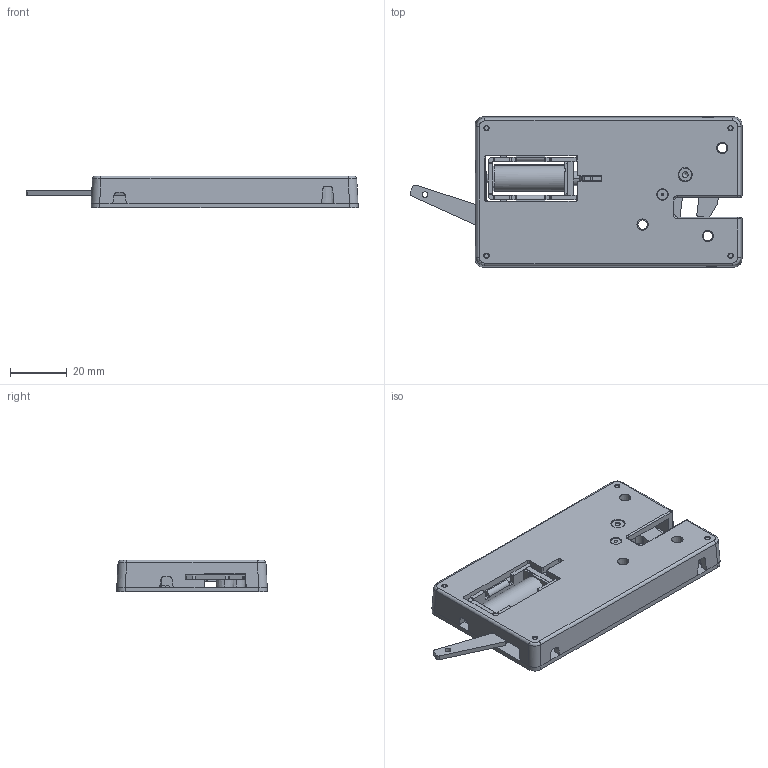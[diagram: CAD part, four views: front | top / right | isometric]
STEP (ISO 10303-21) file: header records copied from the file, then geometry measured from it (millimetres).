
FILE_DESCRIPTION (( 'STEP AP203' ), '1' );
FILE_NAME ('NL0510.STEP', '2024-03-22T05:22:35', ( '' ), ( '' ), 'SwSTEP 2.0', 'SolidWorks 2023', '' );
FILE_SCHEMA (( 'CONFIG_CONTROL_DESIGN' ));
Length unit declared in the file: millimetre
Products named in the file (1): NL0510
Bounding box: 116.95 x 53 x 11.2 mm (x, y, z)
Volume: 28929.3 mm3; surface area: 29743.3 mm2
Topology: 3 solids, 11 shells, 871 faces, 2306 edges, 1465 vertices
Faces by surface type: plane 394, cylinder 318, cone 127, torus 20, bspline 12
Entity records: 29984 total; most frequent: CARTESIAN_POINT 7971, DIRECTION 4704, ORIENTED_EDGE 4588, EDGE_CURVE 2294, AXIS2_PLACEMENT_3D 1701, VERTEX_POINT 1465, VECTOR 1302, LINE 1302
